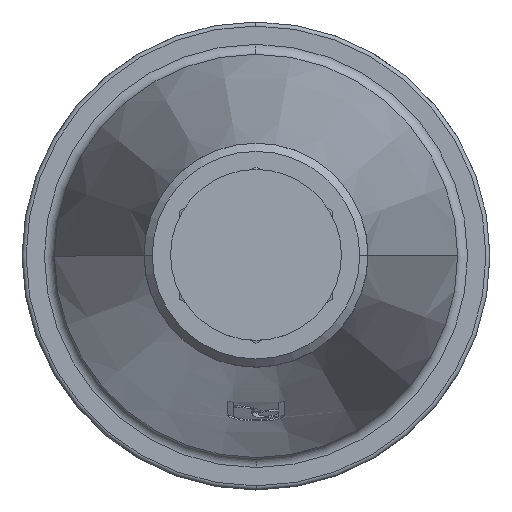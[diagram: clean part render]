
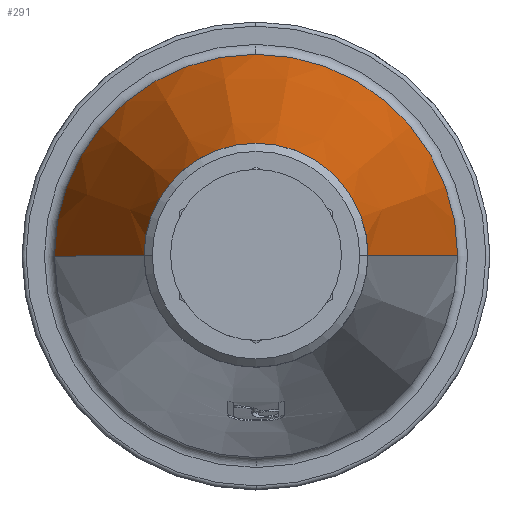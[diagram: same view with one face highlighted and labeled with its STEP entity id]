
A CAD part, top view. The second image highlights one B-rep face of the part: STEP entity #291.
In plain terms, the highlighted conical face has half-angle 12.633 degrees and reference radius 77.092 mm.
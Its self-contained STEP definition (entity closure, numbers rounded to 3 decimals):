
#291=ADVANCED_FACE('',(#613),#614,.T.);
#613=FACE_OUTER_BOUND('',#1000,.T.);
#614=CONICAL_SURFACE('',#1001,77.092,0.22);
#1000=EDGE_LOOP('',(#1669,#1670,#1671,#1672,#1673));
#1001=AXIS2_PLACEMENT_3D('',#1674,#1675,#1676);
#1669=ORIENTED_EDGE('',*,*,#2264,.T.);
#1670=ORIENTED_EDGE('',*,*,#2380,.F.);
#1671=ORIENTED_EDGE('',*,*,#2233,.F.);
#1672=ORIENTED_EDGE('',*,*,#2266,.T.);
#1673=ORIENTED_EDGE('',*,*,#2381,.T.);
#1674=CARTESIAN_POINT('',(313.417,355.282,-47.043));
#1675=DIRECTION('',(0.,0.,-1.0));
#1676=DIRECTION('',(1.,0.001,0.));
#2233=EDGE_CURVE('',#2637,#2639,#2640,.T.);
#2264=EDGE_CURVE('',#2693,#2694,#2695,.T.);
#2266=EDGE_CURVE('',#2637,#2696,#2698,.T.);
#2380=EDGE_CURVE('',#2639,#2694,#2871,.T.);
#2381=EDGE_CURVE('',#2696,#2693,#2872,.T.);
#2637=VERTEX_POINT('',#3197);
#2639=VERTEX_POINT('',#3199);
#2640=CIRCLE('',#3200,99.123);
#2693=VERTEX_POINT('',#3341);
#2694=VERTEX_POINT('',#3342);
#2695=LINE('',#3343,#3344);
#2696=VERTEX_POINT('',#3345);
#2698=LINE('',#3347,#3348);
#2871=CIRCLE('',#3961,99.123);
#2872=CIRCLE('',#3962,55.061);
#3197=CARTESIAN_POINT('',(214.295,355.169,-145.335));
#3199=CARTESIAN_POINT('',(313.304,454.404,-145.335));
#3200=AXIS2_PLACEMENT_3D('',#4445,#4446,#4447);
#3341=CARTESIAN_POINT('',(368.478,355.344,51.25));
#3342=CARTESIAN_POINT('',(412.54,355.395,-145.335));
#3343=CARTESIAN_POINT('',(390.509,355.37,-47.043));
#3344=VECTOR('',#4495,1.0);
#3345=CARTESIAN_POINT('',(258.357,355.219,51.25));
#3347=CARTESIAN_POINT('',(236.326,355.194,-47.043));
#3348=VECTOR('',#4499,1.0);
#3961=AXIS2_PLACEMENT_3D('',#4606,#4607,#4608);
#3962=AXIS2_PLACEMENT_3D('',#4609,#4610,#4611);
#4445=CARTESIAN_POINT('',(313.417,355.282,-145.335));
#4446=DIRECTION('',(0.,0.,-1.0));
#4447=DIRECTION('',(1.,0.001,0.));
#4495=DIRECTION('',(0.219,0.,-0.976));
#4499=DIRECTION('',(0.219,0.,0.976));
#4606=CARTESIAN_POINT('',(313.417,355.282,-145.335));
#4607=DIRECTION('',(0.,0.,-1.0));
#4608=DIRECTION('',(1.,0.001,0.));
#4609=CARTESIAN_POINT('',(313.417,355.282,51.25));
#4610=DIRECTION('',(0.,0.,-1.0));
#4611=DIRECTION('',(1.,0.001,0.));
